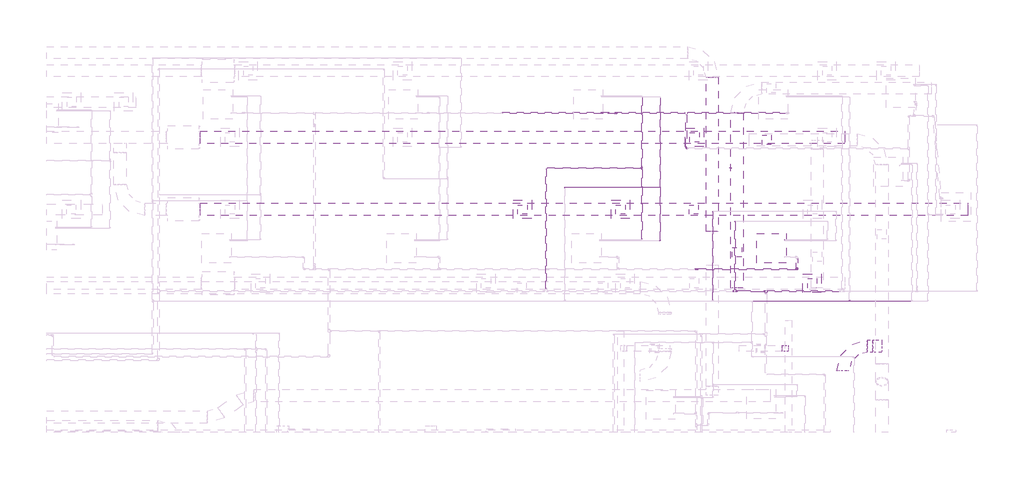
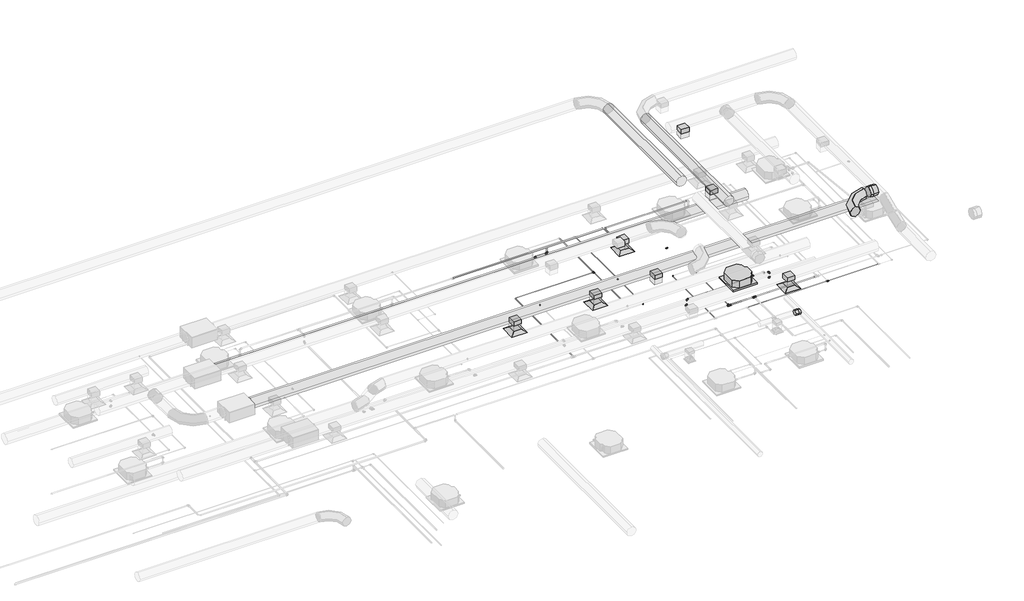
# One storey, part 19 of 21: 24 pipe fittings, 21 pipe segments, 12 duct segments, 10 duct fittings, 4 air terminals, 1 proxy.
"""IFC4 building model written with IfcOpenShell, lengths in millimetres."""

from ifc_helpers import new_model, si_unit, point, frame, frame_2d, origin, place, context, project, spatial, polyline, circle_curve, trimmed, segment, composite_curve, outline, extrude, transform, mapped, element, save
from ifc_brep_helpers import plane_surface, cylinder_surface, advanced_brep
from components import air_terminal_ff221211, mechanical_equipment_53173f38, duct_fitting_7b39ec1d, duct_fitting_f399081e, duct_fitting_95c1ddea, duct_fitting_2_d_33ab650d, pipe_fitting_144f4440, pipe_fitting_1f557113, pipe_fitting_e10b9b22, pipe_fitting_a5ff4f7d, pipe_fitting_660e7500, pipe_fitting_e6d02d16, pipe_fitting_c3679463, pipe_fitting_8c09d5cc, pipe_fitting_03ed5a55, pipe_fitting_c99c78b2, pipe_fitting_efc12074, pipe_fitting_c900cfc2, pipe_fitting_16c020f5, pipe_fitting_09966660, pipe_fitting_648138cd, pipe_fitting_725bd888

model = new_model("IFC4")

# Units and contexts
model_context = context("Model", 3, world=origin())
ifc_project = project(units=[si_unit("LENGTHUNIT", "METRE", prefix="MILLI")], contexts=[model_context])

# Site, building, storey
site = spatial("IfcSite", under=ifc_project)
building = spatial("IfcBuilding", under=site)
storey = spatial("IfcBuildingStorey", under=building, Name="Nível 1", Elevation=0.0)

# Air terminals
placement = place(None, origin())
air_terminal_shape = air_terminal_ff221211(model_context)
element("IfcAirTerminal", 1, ObjectType="M_Difusor de retorno : 600 x 600 Face 300 x 300 Conexão", at=placement, inside=storey, context=model_context, shape_type="MappedRepresentation", body=[
    mapped(air_terminal_shape, transform((25456.5011566, 2283.4261027, 3000.0), x_axis=(0.0, -1.0, 0.0), y_axis=(1.0, 0.0, 0.0), z_axis=(0.0, 0.0, 1.0))),
])
element("IfcAirTerminal", 2, ObjectType="M_Difusor de fornecimento : 600 x 600 Face 300 x 300 Conexão", at=placement, inside=storey, context=model_context, shape_type="MappedRepresentation", body=[
    mapped(air_terminal_shape, transform((16057.3899244, 4681.9327662, 3000.0), x_axis=(0.0, -1.0, 0.0), y_axis=(1.0, 0.0, 0.0), z_axis=(0.0, 0.0, 1.0))),
])
element("IfcAirTerminal", 3, ObjectType="M_Difusor de fornecimento : 600 x 600 Face 300 x 300 Conexão", at=placement, inside=storey, context=model_context, shape_type="MappedRepresentation", body=[
    mapped(air_terminal_shape, transform((19241.8789049, 4681.9327662, 3000.0), x_axis=(0.0, -1.0, 0.0), y_axis=(1.0, 0.0, 0.0), z_axis=(0.0, 0.0, 1.0))),
])
element("IfcAirTerminal", 4, ObjectType="M_Difusor de fornecimento : 600 x 600 Face 300 x 300 Conexão", at=placement, inside=storey, context=model_context, shape_type="MappedRepresentation", body=[
    mapped(air_terminal_shape, transform((21641.9927036, 7022.5342821, 3000.0), x_axis=(0.0, -1.0, 0.0), y_axis=(1.0, 0.0, 0.0), z_axis=(0.0, 0.0, 1.0))),
])

# Proxy
mechanical_equipment_shape = mechanical_equipment_53173f38(model_context)
element("IfcBuildingElementProxy", 5, Name="Midea_VRF_Indoor_4-way Cassette_MI-90(100,112,140)Q4_DHN1-D (2nd DC) : MI2-112Q4DHN1", ObjectType="Midea_VRF_Indoor_4-way Cassette_MI-90(100,112,140)Q4_DHN1-D (2nd DC) : MI2-112Q4DHN1", at=placement, inside=storey, context=model_context, shape_type="MappedRepresentation", body=[
    mapped(mechanical_equipment_shape, transform((24136.4781645, 3426.4200133, 2999.9914899), x_axis=(1.0, 0.0, 0.0), y_axis=(0.0, 1.0, 0.0), z_axis=(0.0, 0.0, 1.0))),
])

# Duct fittings
duct_fitting_shape = duct_fitting_7b39ec1d(model_context)
element("IfcDuctFitting", 6, ObjectType="M_Encaixe de duto redondo : Padrão", at=placement, inside=storey, context=model_context, shape_type="MappedRepresentation", body=[
    mapped(duct_fitting_shape, transform((24589.1034633, 172.1125512, 3521.0), x_axis=(-1.0, 0.0, 0.0), y_axis=(0.0, 1.0, 0.0), z_axis=(0.0, 0.0, -1.0))),
])
duct_fitting_2_shape = duct_fitting_f399081e(model_context)
element("IfcDuctFitting", 7, ObjectType="M_Encaixe de duto redondo : Padrão", at=placement, inside=storey, context=model_context, shape_type="MappedRepresentation", body=[
    mapped(duct_fitting_2_shape, transform((27514.7064473, 240.6110248, 7501.0), x_axis=(-1.0, 0.0, 0.0), y_axis=(0.0, 1.0, 0.0), z_axis=(0.0, 0.0, -1.0))),
])
duct_fitting_3_shape = duct_fitting_95c1ddea(model_context)
element("IfcDuctFitting", 8, ObjectType="M_Encaixe de duto retangular : Padrão", at=placement, inside=storey, context=model_context, shape_type="MappedRepresentation", body=[
    mapped(duct_fitting_3_shape, transform((16057.3899244, 4681.9327662, 3421.0), x_axis=(0.0, 0.0, -1.0), y_axis=(-1.0, 0.0, 0.0), z_axis=(0.0, 1.0, 0.0))),
])
element("IfcDuctFitting", 9, ObjectType="M_Encaixe de duto retangular : Padrão", at=placement, inside=storey, context=model_context, shape_type="MappedRepresentation", body=[
    mapped(duct_fitting_3_shape, transform((19241.8789049, 4681.9327662, 3421.0), x_axis=(0.0, 0.0, -1.0), y_axis=(-1.0, 0.0, 0.0), z_axis=(0.0, 1.0, 0.0))),
])
element("IfcDuctFitting", 10, ObjectType="M_Encaixe de duto retangular : Padrão", at=placement, inside=storey, context=model_context, shape_type="MappedRepresentation", body=[
    mapped(duct_fitting_3_shape, transform((21615.5206341, 4681.9327662, 3421.0), x_axis=(0.0, 0.0, -1.0), y_axis=(-1.0, 0.0, 0.0), z_axis=(0.0, 1.0, 0.0))),
])
element("IfcDuctFitting", 11, ObjectType="M_Encaixe de duto retangular : Padrão", at=placement, inside=storey, context=model_context, shape_type="MappedRepresentation", body=[
    mapped(duct_fitting_3_shape, transform((21641.9927036, 7022.5342821, 3421.0), x_axis=(0.0, 0.0, -1.0), y_axis=(-1.0, 0.0, 0.0), z_axis=(0.0, 1.0, 0.0))),
])
element("IfcDuctFitting", 12, ObjectType="M_Encaixe de duto retangular : Padrão", at=placement, inside=storey, context=model_context, shape_type="MappedRepresentation", body=[
    mapped(duct_fitting_3_shape, transform((25456.5011566, 2283.4261027, 3421.0), x_axis=(0.0, 0.0, -1.0), y_axis=(-1.0, 0.0, 0.0), z_axis=(0.0, 1.0, 0.0))),
])
element("IfcDuctFitting", 13, ObjectType="M_Encaixe de duto retangular : Padrão", at=placement, inside=storey, context=model_context, shape_type="MappedRepresentation", body=[
    mapped(duct_fitting_3_shape, transform((23981.0509329, 6937.3539749, 7301.0), x_axis=(0.0, 0.0, -1.0), y_axis=(-1.0, 0.0, 0.0), z_axis=(0.0, 1.0, 0.0))),
])
element("IfcDuctFitting", 14, ObjectType="M_Encaixe de duto retangular : Padrão", at=placement, inside=storey, context=model_context, shape_type="MappedRepresentation", body=[
    mapped(duct_fitting_3_shape, transform((23014.7064473, 3294.7054459, 7301.0), x_axis=(0.0, 0.0, -1.0), y_axis=(0.0, 1.0, 0.0), z_axis=(1.0, 0.0, 0.0))),
])
duct_fitting_2_d_shape = duct_fitting_2_d_33ab650d(model_context)
element("IfcDuctFitting", 15, ObjectType="M_Cotovelo redondo : 2 D", at=placement, inside=storey, context=model_context, shape_type="MappedRepresentation", body=[
    mapped(duct_fitting_2_d_shape, transform((26448.2077756, 240.6110248, 7501.0), x_axis=(-1.0, 0.0, 0.0), y_axis=(0.0, -1.0, 0.0), z_axis=(0.0, 0.0, 1.0))),
])

# Duct segments
element("IfcDuctSegment", 16, ObjectType="Torneiras / Raio curto", at=placement, inside=storey, context=model_context, shape_type="SweptSolid", body=[
    extrude(outline(composite_curve([segment(trimmed(circle_curve(frame_2d((4681.9327662, 3621.0)), 200.0), [point((4481.9327662, 3621.0))], [point((4681.9327662, 3821.0))], False, "CARTESIAN"), True, "CONTINUOUS"), segment(trimmed(circle_curve(frame_2d((4681.9327662, 3621.0)), 200.0), [point((4681.9327662, 3821.0))], [point((4881.9327662, 3621.0))], False, "CARTESIAN"), True, "CONTINUOUS"), segment(trimmed(circle_curve(frame_2d((4681.9327662, 3621.0)), 200.0), [point((4881.9327662, 3621.0))], [point((4681.9327662, 3421.0))], False, "CARTESIAN"), True, "CONTINUOUS"), segment(trimmed(circle_curve(frame_2d((4681.9327662, 3621.0)), 200.0), [point((4681.9327662, 3421.0))], [point((4481.9327662, 3621.0))], False, "CARTESIAN"), True, "CONTINUOUS")], self_intersect=False)), frame((5607.3899244, 0.0, 0.0), z_axis=(1.0, 0.0, 0.0), x_axis=(0.0, 1.0, 0.0)), (0.0, 0.0, 1.0), 24900.0),
])
element("IfcDuctSegment", 17, ObjectType="Torneiras / Raio curto", at=placement, inside=storey, context=model_context, shape_type="SweptSolid", body=[
    extrude(outline(composite_curve([segment(trimmed(circle_curve(frame_2d((7022.5342821, 3621.0)), 200.0), [point((6822.5342821, 3621.0))], [point((7022.5342821, 3821.0))], False, "CARTESIAN"), True, "CONTINUOUS"), segment(trimmed(circle_curve(frame_2d((7022.5342821, 3621.0)), 200.0), [point((7022.5342821, 3821.0))], [point((7222.5342821, 3621.0))], False, "CARTESIAN"), True, "CONTINUOUS"), segment(trimmed(circle_curve(frame_2d((7022.5342821, 3621.0)), 200.0), [point((7222.5342821, 3621.0))], [point((7022.5342821, 3421.0))], False, "CARTESIAN"), True, "CONTINUOUS"), segment(trimmed(circle_curve(frame_2d((7022.5342821, 3621.0)), 200.0), [point((7022.5342821, 3421.0))], [point((6822.5342821, 3621.0))], False, "CARTESIAN"), True, "CONTINUOUS")], self_intersect=False)), frame((5607.3899244, 0.0, 0.0), z_axis=(1.0, 0.0, 0.0), x_axis=(0.0, 1.0, 0.0)), (0.0, 0.0, 1.0), 20900.0),
])
element("IfcDuctSegment", 18, ObjectType="Raios cotovelos / torneiras", at=placement, inside=storey, context=model_context, shape_type="SweptSolid", body=[
    extrude(outline(polyline([(16207.3899244, 4531.9327662), (15907.3899244, 4531.9327662), (15907.3899244, 4831.9327662), (16207.3899244, 4831.9327662), (16207.3899244, 4531.9327662)])), frame((0.0, 0.0, 3101.6), z_axis=(0.0, 0.0, 1.0), x_axis=(1.0, 0.0, 0.0)), (0.0, 0.0, 1.0), 217.8),
])
element("IfcDuctSegment", 19, ObjectType="Raios cotovelos / torneiras", at=placement, inside=storey, context=model_context, shape_type="SweptSolid", body=[
    extrude(outline(polyline([(19391.8789049, 4531.9327662), (19091.8789049, 4531.9327662), (19091.8789049, 4831.9327662), (19391.8789049, 4831.9327662), (19391.8789049, 4531.9327662)])), frame((0.0, 0.0, 3101.6), z_axis=(0.0, 0.0, 1.0), x_axis=(1.0, 0.0, 0.0)), (0.0, 0.0, 1.0), 217.8),
])
element("IfcDuctSegment", 20, ObjectType="Raios cotovelos / torneiras", at=placement, inside=storey, context=model_context, shape_type="SweptSolid", body=[
    extrude(outline(polyline([(21765.5206341, 4531.9327662), (21465.5206341, 4531.9327662), (21465.5206341, 4831.9327662), (21765.5206341, 4831.9327662), (21765.5206341, 4531.9327662)])), frame((0.0, 0.0, 3101.6), z_axis=(0.0, 0.0, 1.0), x_axis=(1.0, 0.0, 0.0)), (0.0, 0.0, 1.0), 217.8),
])
element("IfcDuctSegment", 21, ObjectType="Raios cotovelos / torneiras", at=placement, inside=storey, context=model_context, shape_type="SweptSolid", body=[
    extrude(outline(polyline([(21791.9927036, 6872.5342821), (21491.9927036, 6872.5342821), (21491.9927036, 7172.5342821), (21791.9927036, 7172.5342821), (21791.9927036, 6872.5342821)])), frame((0.0, 0.0, 3101.6), z_axis=(0.0, 0.0, 1.0), x_axis=(1.0, 0.0, 0.0)), (0.0, 0.0, 1.0), 217.8),
])
element("IfcDuctSegment", 22, ObjectType="Raios cotovelos / torneiras", at=placement, inside=storey, context=model_context, shape_type="SweptSolid", body=[
    extrude(outline(polyline([(25606.5011566, 2133.4261027), (25306.5011566, 2133.4261027), (25306.5011566, 2433.4261027), (25606.5011566, 2433.4261027), (25606.5011566, 2133.4261027)])), frame((0.0, 0.0, 3101.6), z_axis=(0.0, 0.0, 1.0), x_axis=(1.0, 0.0, 0.0)), (0.0, 0.0, 1.0), 217.8),
])
element("IfcDuctSegment", 23, ObjectType="Torneiras / Raio curto", at=placement, inside=storey, context=model_context, shape_type="SweptSolid", body=[
    extrude(outline(composite_curve([segment(trimmed(circle_curve(frame_2d((240.6110248, 7501.0)), 200.0), [point((440.6110248, 7501.0))], [point((240.6110248, 7301.0))], False, "CARTESIAN"), True, "CONTINUOUS"), segment(trimmed(circle_curve(frame_2d((240.6110248, 7501.0)), 200.0), [point((240.6110248, 7301.0))], [point((40.6110248, 7501.0))], False, "CARTESIAN"), True, "CONTINUOUS"), segment(trimmed(circle_curve(frame_2d((240.6110248, 7501.0)), 200.0), [point((40.6110248, 7501.0))], [point((240.6110248, 7701.0))], False, "CARTESIAN"), True, "CONTINUOUS"), segment(trimmed(circle_curve(frame_2d((240.6110248, 7501.0)), 200.0), [point((240.6110248, 7701.0))], [point((440.6110248, 7501.0))], False, "CARTESIAN"), True, "CONTINUOUS")], self_intersect=False)), frame((27248.2077756, 0.0, 0.0), z_axis=(1.0, 0.0, 0.0), x_axis=(0.0, 1.0, 0.0)), (0.0, 0.0, 1.0), 164.8986717),
])
element("IfcDuctSegment", 24, ObjectType="Raios cotovelos / torneiras", at=placement, inside=storey, context=model_context, shape_type="SweptSolid", body=[
    extrude(outline(polyline([(24131.0509329, 6787.3539749), (23831.0509329, 6787.3539749), (23831.0509329, 7087.3539749), (24131.0509329, 7087.3539749), (24131.0509329, 6787.3539749)])), frame((0.0, 0.0, 6981.6), z_axis=(0.0, 0.0, 1.0), x_axis=(1.0, 0.0, 0.0)), (0.0, 0.0, 1.0), 217.8),
])
element("IfcDuctSegment", 25, ObjectType="Torneiras / Raio curto", at=placement, inside=storey, context=model_context, shape_type="SweptSolid", body=[
    extrude(outline(composite_curve([segment(trimmed(circle_curve(frame_2d((7501.0, 23014.7064473)), 200.0), [point((7501.0, 22814.7064473))], [point((7301.0, 23014.7064473))], False, "CARTESIAN"), True, "CONTINUOUS"), segment(trimmed(circle_curve(frame_2d((7501.0, 23014.7064473)), 200.0), [point((7301.0, 23014.7064473))], [point((7501.0, 23214.7064473))], False, "CARTESIAN"), True, "CONTINUOUS"), segment(trimmed(circle_curve(frame_2d((7501.0, 23014.7064473)), 200.0), [point((7501.0, 23214.7064473))], [point((7701.0, 23014.7064473))], False, "CARTESIAN"), True, "CONTINUOUS"), segment(trimmed(circle_curve(frame_2d((7501.0, 23014.7064473)), 200.0), [point((7701.0, 23014.7064473))], [point((7501.0, 22814.7064473))], False, "CARTESIAN"), True, "CONTINUOUS")], self_intersect=False)), frame((0.0, 2137.3539749, 0.0), z_axis=(0.0, 1.0, 0.0), x_axis=(0.0, 0.0, 1.0)), (0.0, 0.0, 1.0), 5679.3450093),
])
element("IfcDuctSegment", 26, ObjectType="Torneiras / Raio curto", at=placement, inside=storey, context=model_context, shape_type="SweptSolid", body=[
    extrude(outline(composite_curve([segment(trimmed(circle_curve(frame_2d((7501.0, 22212.1483041)), 200.0), [point((7501.0, 22412.1483041))], [point((7701.0, 22212.1483041))], False, "CARTESIAN"), True, "CONTINUOUS"), segment(trimmed(circle_curve(frame_2d((7501.0, 22212.1483041)), 200.0), [point((7701.0, 22212.1483041))], [point((7501.0, 22012.1483041))], False, "CARTESIAN"), True, "CONTINUOUS"), segment(trimmed(circle_curve(frame_2d((7501.0, 22212.1483041)), 200.0), [point((7501.0, 22012.1483041))], [point((7301.0, 22212.1483041))], False, "CARTESIAN"), True, "CONTINUOUS"), segment(trimmed(circle_curve(frame_2d((7501.0, 22212.1483041)), 200.0), [point((7301.0, 22212.1483041))], [point((7501.0, 22412.1483041))], False, "CARTESIAN"), True, "CONTINUOUS")], self_intersect=False)), frame((0.0, 3969.8368648, 0.0), z_axis=(0.0, 1.0, 0.0), x_axis=(0.0, 0.0, 1.0)), (0.0, 0.0, 1.0), 5000.0),
])
element("IfcDuctSegment", 27, ObjectType="Raios cotovelos / torneiras", at=placement, inside=storey, context=model_context, shape_type="SweptSolid", body=[
    extrude(outline(polyline([(22864.7064473, 3144.7054459), (22864.7064473, 3444.7054459), (23164.7064473, 3444.7054459), (23164.7064473, 3144.7054459), (22864.7064473, 3144.7054459)])), frame((0.0, 0.0, 6981.6), z_axis=(0.0, 0.0, 1.0), x_axis=(1.0, 0.0, 0.0)), (0.0, 0.0, 1.0), 217.8),
])

# Pipe fittings
pipe_fitting_shape = pipe_fitting_144f4440(model_context)
element("IfcPipeFitting", 28, ObjectType="Cotovelo - PVC - CW : Padrão", at=placement, inside=storey, context=model_context, shape_type="MappedRepresentation", body=[
    mapped(pipe_fitting_shape, transform((21703.0781645, 2741.4200133, 3500.0), x_axis=(-1.0, 0.0, 0.0), y_axis=(0.0, 0.0, -1.0), z_axis=(0.0, -1.0, 0.0))),
])
element("IfcPipeFitting", 29, ObjectType="Cotovelo - PVC - CW : Padrão", at=placement, inside=storey, context=model_context, shape_type="MappedRepresentation", body=[
    mapped(pipe_fitting_shape, transform((21703.0781645, 2741.4200133, 3252.3), x_axis=(0.0, 0.0, -1.0), y_axis=(-1.0, 0.0, 0.0), z_axis=(0.0, 1.0, 0.0))),
])
element("IfcPipeFitting", 30, ObjectType="Cotovelo - PVC - CW : Padrão", at=placement, inside=storey, context=model_context, shape_type="MappedRepresentation", body=[
    mapped(pipe_fitting_shape, transform((24961.4781645, 2741.4200133, 3500.0), x_axis=(1.0, 0.0, 0.0), y_axis=(0.0, 0.0, -1.0), z_axis=(0.0, 1.0, 0.0))),
])
element("IfcPipeFitting", 31, ObjectType="Cotovelo - PVC - CW : Padrão", at=placement, inside=storey, context=model_context, shape_type="MappedRepresentation", body=[
    mapped(pipe_fitting_shape, transform((24961.4781645, 2741.4200133, 3252.3), x_axis=(0.0, 0.0, -1.0), y_axis=(0.0, 1.0, 0.0), z_axis=(1.0, 0.0, 0.0))),
])
element("IfcPipeFitting", 32, ObjectType="Cotovelo - PVC - CW : Padrão", at=placement, inside=storey, context=model_context, shape_type="MappedRepresentation", body=[
    mapped(pipe_fitting_shape, transform((21369.1842863, 6666.8040024, 3500.0), x_axis=(0.0, -1.0, 0.0), y_axis=(1.0, 0.0, 0.0), z_axis=(0.0, 0.0, 1.0))),
])
pipe_fitting_2_shape = pipe_fitting_1f557113(model_context)
element("IfcPipeFitting", 33, ObjectType="Redutor de acoplamento - PVC - CW : Padrão", at=placement, inside=storey, context=model_context, shape_type="MappedRepresentation", body=[
    mapped(pipe_fitting_2_shape, transform((18616.7954066, 7810.8048285, 3252.3085101), x_axis=(1.0, 0.0, 0.0), y_axis=(0.0, 1.0, 0.0), z_axis=(0.0, 0.0, 1.0))),
])
pipe_fitting_3_shape = pipe_fitting_e10b9b22(model_context)
element("IfcPipeFitting", 34, ObjectType="Cotovelo - PVC - CW : Padrão", at=placement, inside=storey, context=model_context, shape_type="MappedRepresentation", body=[
    mapped(pipe_fitting_3_shape, transform((19116.7954065, 7810.8048285, 3252.3), x_axis=(0.9999999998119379, 0.0, -1.9393922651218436e-05), y_axis=(1.9393922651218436e-05, 0.0, 0.9999999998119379), z_axis=(0.0, -1.0, 0.0))),
])
pipe_fitting_4_shape = pipe_fitting_a5ff4f7d(model_context)
element("IfcPipeFitting", 35, ObjectType="Bucha de redução reta - Soldada - CU : Padrão", at=placement, inside=storey, context=model_context, shape_type="MappedRepresentation", body=[
    mapped(pipe_fitting_4_shape, transform((19932.4995645, 6059.5006845, 3252.3085101), x_axis=(0.0, 1.0, 0.0), y_axis=(-1.0, 0.0, 0.0), z_axis=(0.0, 0.0, 1.0))),
])
element("IfcPipeFitting", 36, ObjectType="Bucha de redução reta - Soldada - CU : Padrão", at=placement, inside=storey, context=model_context, shape_type="MappedRepresentation", body=[
    mapped(pipe_fitting_4_shape, transform((19932.4995645, 5994.0064845, 3252.3085101), x_axis=(0.0, -1.0, 0.0), y_axis=(1.0, 0.0, 0.0), z_axis=(0.0, 0.0, 1.0))),
])
pipe_fitting_5_shape = pipe_fitting_660e7500(model_context)
element("IfcPipeFitting", 37, ObjectType="Tê - Soldado - CU : Padrão", at=placement, inside=storey, context=model_context, shape_type="MappedRepresentation", body=[
    mapped(pipe_fitting_5_shape, transform((19932.4995645, 6026.7535845, 3252.3085101), x_axis=(0.0, -1.0, 0.0), y_axis=(1.0, 0.0, 0.0), z_axis=(0.0, 0.0, 1.0))),
])
pipe_fitting_6_shape = pipe_fitting_e6d02d16(model_context)
element("IfcPipeFitting", 38, ObjectType="Bucha de redução reta - Soldada - CU : Padrão", at=placement, inside=storey, context=model_context, shape_type="MappedRepresentation", body=[
    mapped(pipe_fitting_6_shape, transform((26696.6697481, 1706.2287572, 3146.8), x_axis=(1.0, 0.0, 0.0), y_axis=(0.0, 0.9999999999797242, -6.368020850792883e-06), z_axis=(0.0, 6.368020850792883e-06, 0.9999999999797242))),
])
pipe_fitting_7_shape = pipe_fitting_c3679463(model_context)
element("IfcPipeFitting", 39, ObjectType="Bucha de redução reta - Soldada - CU : Padrão", at=placement, inside=storey, context=model_context, shape_type="MappedRepresentation", body=[
    mapped(pipe_fitting_7_shape, transform((22952.4995645, 2076.083811, 3240.864751), x_axis=(0.0, 1.0, 0.0), y_axis=(-0.9999998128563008, 0.0, 0.0006117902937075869), z_axis=(0.0006117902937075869, 0.0, 0.9999998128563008))),
])
pipe_fitting_8_shape = pipe_fitting_8c09d5cc(model_context)
element("IfcPipeFitting", 40, ObjectType="Tê - Soldado - CU : Padrão", at=placement, inside=storey, context=model_context, shape_type="MappedRepresentation", body=[
    mapped(pipe_fitting_8_shape, transform((22952.4995645, 2025.308811, 3240.864751), x_axis=(-0.9999998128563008, 0.0, 0.0006117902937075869), y_axis=(0.0, -1.0, 0.0), z_axis=(0.0006117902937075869, 0.0, 0.9999998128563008))),
])
pipe_fitting_9_shape = pipe_fitting_03ed5a55(model_context)
element("IfcPipeFitting", 41, ObjectType="Bucha de redução reta - Soldada - CU : Padrão", at=placement, inside=storey, context=model_context, shape_type="MappedRepresentation", body=[
    mapped(pipe_fitting_9_shape, transform((23003.182055, 2025.308811, 3240.833744), x_axis=(0.9999998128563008, 0.0, -0.0006117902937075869), y_axis=(0.0, 1.0, 0.0), z_axis=(0.0006117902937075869, 0.0, 0.9999998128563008))),
])
pipe_fitting_10_shape = pipe_fitting_c99c78b2(model_context)
element("IfcPipeFitting", 42, ObjectType="Bucha de redução reta - Soldada - CU : Padrão", at=placement, inside=storey, context=model_context, shape_type="MappedRepresentation", body=[
    mapped(pipe_fitting_10_shape, transform((26666.4744981, 1736.3892572, 3146.7998079), x_axis=(0.0, 0.9999999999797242, -6.368020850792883e-06), y_axis=(-1.0000000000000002, 0.0, 0.0), z_axis=(0.0, 6.368020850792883e-06, 0.9999999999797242))),
])
pipe_fitting_11_shape = pipe_fitting_efc12074(model_context)
element("IfcPipeFitting", 43, ObjectType="Tê - Soldado - CU : Padrão", at=placement, inside=storey, context=model_context, shape_type="MappedRepresentation", body=[
    mapped(pipe_fitting_11_shape, transform((23956.1500382, 2025.308811, 3240.2507273), x_axis=(-0.9999998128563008, 0.0, 0.0006117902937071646), y_axis=(0.0, 1.0, 0.0), z_axis=(-0.0006117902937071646, 0.0, -0.9999998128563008))),
])
pipe_fitting_12_shape = pipe_fitting_c900cfc2(model_context)
element("IfcPipeFitting", 44, ObjectType="Bucha de redução reta - Soldada - CU : Padrão", at=placement, inside=storey, context=model_context, shape_type="MappedRepresentation", body=[
    mapped(pipe_fitting_12_shape, transform((24561.4781645, 3699.630827, 3252.3085101), x_axis=(1.0, 0.0, 0.0), y_axis=(0.0, 1.0, 0.0), z_axis=(0.0, 0.0, 1.0))),
])
pipe_fitting_13_shape = pipe_fitting_16c020f5(model_context)
element("IfcPipeFitting", 45, ObjectType="Cotovelo - Soldado - CU : Padrão", at=placement, inside=storey, context=model_context, shape_type="MappedRepresentation", body=[
    mapped(pipe_fitting_13_shape, transform((22952.4995645, 4299.630827, 3252.3), x_axis=(-1.0, 0.0, 0.0), y_axis=(0.0, -0.9999862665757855, -0.005240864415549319), z_axis=(0.0, -0.005240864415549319, 0.9999862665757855))),
])
pipe_fitting_14_shape = pipe_fitting_09966660(model_context)
element("IfcPipeFitting", 46, ObjectType="Tê - Soldado - CU : Padrão", at=placement, inside=storey, context=model_context, shape_type="MappedRepresentation", body=[
    mapped(pipe_fitting_14_shape, transform((22814.4048066, 6034.3232345, 3252.3085101), x_axis=(-1.0, 0.0, 0.0), y_axis=(0.0, 1.0, 0.0), z_axis=(0.0, 0.0, -1.0))),
])
element("IfcPipeFitting", 47, ObjectType="Tê - Soldado - CU : Padrão", at=placement, inside=storey, context=model_context, shape_type="MappedRepresentation", body=[
    mapped(pipe_fitting_14_shape, transform((26666.4744981, 1706.2287572, 3146.8), x_axis=(-1.0, 0.0, 0.0), y_axis=(0.0, -0.9999999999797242, 6.368020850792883e-06), z_axis=(0.0, 6.368020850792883e-06, 0.9999999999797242))),
])
pipe_fitting_15_shape = pipe_fitting_648138cd(model_context)
element("IfcPipeFitting", 48, ObjectType="Cotovelo - Soldado - CU : Padrão", at=placement, inside=storey, context=model_context, shape_type="MappedRepresentation", body=[
    mapped(pipe_fitting_15_shape, transform((20526.4698012, 3665.8283851, 3146.7009439), x_axis=(0.9999999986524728, 0.0, -5.1913914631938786e-05), y_axis=(0.0, 1.0000000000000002, 0.0), z_axis=(5.1913914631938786e-05, 0.0, 0.9999999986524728))),
])
element("IfcPipeFitting", 49, ObjectType="Cotovelo - Soldado - CU : Padrão", at=placement, inside=storey, context=model_context, shape_type="MappedRepresentation", body=[
    mapped(pipe_fitting_15_shape, transform((17431.2298012, 5398.6550429, 3146.7009439), x_axis=(-1.0, 0.0, 0.0), y_axis=(0.0, -0.9999999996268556, 2.7318286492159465e-05), z_axis=(0.0, 2.7318286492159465e-05, 0.9999999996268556))),
])
element("IfcPipeFitting", 50, ObjectType="Cotovelo - Soldado - CU : Padrão", at=placement, inside=storey, context=model_context, shape_type="MappedRepresentation", body=[
    mapped(pipe_fitting_15_shape, transform((22231.1525645, 4625.8283851, 3146.8), x_axis=(-1.0, 0.0, 0.0), y_axis=(0.0, -1.0, 0.0), z_axis=(0.0, 0.0, 1.0))),
])
pipe_fitting_16_shape = pipe_fitting_725bd888(model_context)
element("IfcPipeFitting", 51, ObjectType="Tê - Soldado - CU : Padrão", at=placement, inside=storey, context=model_context, shape_type="MappedRepresentation", body=[
    mapped(pipe_fitting_16_shape, transform((20526.4698012, 5398.6550429, 3146.7009439), x_axis=(0.0, 1.0, 0.0), y_axis=(1.0, 0.0, 0.0), z_axis=(0.0, 0.0, -1.0))),
])

# Pipe segments
element("IfcPipeSegment", 52, ObjectType="Plástico", at=placement, inside=storey, context=model_context, shape_type="SweptSolid", body=[
    extrude(outline(composite_curve([segment(trimmed(circle_curve(frame_2d((2741.4200133, 3500.0)), 20.0), [point((2721.4200133, 3500.0))], [point((2741.4200133, 3520.0))], False, "CARTESIAN"), True, "CONTINUOUS"), segment(trimmed(circle_curve(frame_2d((2741.4200133, 3500.0)), 20.0), [point((2741.4200133, 3520.0))], [point((2761.4200133, 3500.0))], False, "CARTESIAN"), True, "CONTINUOUS"), segment(trimmed(circle_curve(frame_2d((2741.4200133, 3500.0)), 20.0), [point((2761.4200133, 3500.0))], [point((2741.4200133, 3480.0))], False, "CARTESIAN"), True, "CONTINUOUS"), segment(trimmed(circle_curve(frame_2d((2741.4200133, 3500.0)), 20.0), [point((2741.4200133, 3480.0))], [point((2721.4200133, 3500.0))], False, "CARTESIAN"), True, "CONTINUOUS")], self_intersect=False)), frame((21748.0781645, 0.0, 0.0), z_axis=(1.0, 0.0, 0.0), x_axis=(0.0, 1.0, 0.0)), (0.0, 0.0, 1.0), 3168.4),
])
element("IfcPipeSegment", 53, ObjectType="Plástico", at=placement, inside=storey, context=model_context, shape_type="SweptSolid", body=[
    extrude(outline(composite_curve([segment(trimmed(circle_curve(frame_2d((3252.3, 24961.4781645)), 20.0), [point((3252.3, 24981.4781645))], [point((3272.3, 24961.4781645))], False, "CARTESIAN"), True, "CONTINUOUS"), segment(trimmed(circle_curve(frame_2d((3252.3, 24961.4781645)), 20.0), [point((3272.3, 24961.4781645))], [point((3252.3, 24941.4781645))], False, "CARTESIAN"), True, "CONTINUOUS"), segment(trimmed(circle_curve(frame_2d((3252.3, 24961.4781645)), 20.0), [point((3252.3, 24941.4781645))], [point((3232.3, 24961.4781645))], False, "CARTESIAN"), True, "CONTINUOUS"), segment(trimmed(circle_curve(frame_2d((3252.3, 24961.4781645)), 20.0), [point((3232.3, 24961.4781645))], [point((3252.3, 24981.4781645))], False, "CARTESIAN"), True, "CONTINUOUS")], self_intersect=False)), frame((0.0, 2786.4200133, 0.0), z_axis=(0.0, 1.0, 0.0), x_axis=(0.0, 0.0, 1.0)), (0.0, 0.0, 1.0), 310.0),
])
element("IfcPipeSegment", 54, ObjectType="Plástico", at=placement, inside=storey, context=model_context, shape_type="SweptSolid", body=[
    extrude(outline(composite_curve([segment(trimmed(circle_curve(frame_2d((24961.4781645, 2741.4200133)), 20.0), [point((24981.4781645, 2741.4200133))], [point((24961.4781645, 2721.4200133))], False, "CARTESIAN"), True, "CONTINUOUS"), segment(trimmed(circle_curve(frame_2d((24961.4781645, 2741.4200133)), 20.0), [point((24961.4781645, 2721.4200133))], [point((24941.4781645, 2741.4200133))], False, "CARTESIAN"), True, "CONTINUOUS"), segment(trimmed(circle_curve(frame_2d((24961.4781645, 2741.4200133)), 20.0), [point((24941.4781645, 2741.4200133))], [point((24961.4781645, 2761.4200133))], False, "CARTESIAN"), True, "CONTINUOUS"), segment(trimmed(circle_curve(frame_2d((24961.4781645, 2741.4200133)), 20.0), [point((24961.4781645, 2761.4200133))], [point((24981.4781645, 2741.4200133))], False, "CARTESIAN"), True, "CONTINUOUS")], self_intersect=False)), frame((0.0, 0.0, 3297.3), z_axis=(0.0, 0.0, 1.0), x_axis=(1.0, 0.0, 0.0)), (0.0, 0.0, 1.0), 157.7),
])
element("IfcPipeSegment", 55, ObjectType="Plástico", at=placement, inside=storey, context=model_context, shape_type="SweptSolid", body=[
    extrude(outline(composite_curve([segment(trimmed(circle_curve(frame_2d((0.0, -25.0)), 25.0), [point((-25.0, -25.0))], [point((0.0, 0.0))], False, "CARTESIAN"), True, "CONTINUOUS"), segment(trimmed(circle_curve(frame_2d((0.0, -25.0)), 25.0), [point((0.0, 0.0))], [point((25.0, -25.0))], False, "CARTESIAN"), True, "CONTINUOUS"), segment(trimmed(circle_curve(frame_2d((0.0, -25.0)), 25.0), [point((25.0, -25.0))], [point((0.0, -50.0))], False, "CARTESIAN"), True, "CONTINUOUS"), segment(trimmed(circle_curve(frame_2d((0.0, -25.0)), 25.0), [point((0.0, -50.0))], [point((-25.0, -25.0))], False, "CARTESIAN"), True, "CONTINUOUS")], self_intersect=False)), frame((19062.7943786, 7810.8048285, 3227.3010473), z_axis=(-0.999999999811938, 0.0, 1.9393922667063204e-05), x_axis=(0.0, 1.0, 0.0)), (0.0, 0.0, 1.0), 384.799457),
])
element("IfcPipeSegment", 56, ObjectType="Plástico", at=placement, inside=storey, context=model_context, shape_type="SweptSolid", body=[
    extrude(outline(composite_curve([segment(trimmed(circle_curve(frame_2d((19116.7954065, 7810.8048285)), 25.0), [point((19141.7954065, 7810.8048285))], [point((19116.7954065, 7785.8048285))], False, "CARTESIAN"), True, "CONTINUOUS"), segment(trimmed(circle_curve(frame_2d((19116.7954065, 7810.8048285)), 25.0), [point((19116.7954065, 7785.8048285))], [point((19091.7954065, 7810.8048285))], False, "CARTESIAN"), True, "CONTINUOUS"), segment(trimmed(circle_curve(frame_2d((19116.7954065, 7810.8048285)), 25.0), [point((19091.7954065, 7810.8048285))], [point((19116.7954065, 7835.8048285))], False, "CARTESIAN"), True, "CONTINUOUS"), segment(trimmed(circle_curve(frame_2d((19116.7954065, 7810.8048285)), 25.0), [point((19116.7954065, 7835.8048285))], [point((19141.7954065, 7810.8048285))], False, "CARTESIAN"), True, "CONTINUOUS")], self_intersect=False)), frame((0.0, 0.0, 3306.300543), z_axis=(0.0, 0.0, 1.0), x_axis=(1.0, 0.0, 0.0)), (0.0, 0.0, 1.0), 139.699457),
])
element("IfcPipeSegment", 57, ObjectType="Plástico", at=placement, inside=storey, context=model_context, shape_type="SweptSolid", body=[
    extrude(outline(composite_curve([segment(trimmed(circle_curve(frame_2d((7810.8048285, 3500.0)), 25.0), [point((7785.8048285, 3500.0))], [point((7810.8048285, 3525.0))], False, "CARTESIAN"), True, "CONTINUOUS"), segment(trimmed(circle_curve(frame_2d((7810.8048285, 3500.0)), 25.0), [point((7810.8048285, 3525.0))], [point((7835.8048285, 3500.0))], False, "CARTESIAN"), True, "CONTINUOUS"), segment(trimmed(circle_curve(frame_2d((7810.8048285, 3500.0)), 25.0), [point((7835.8048285, 3500.0))], [point((7810.8048285, 3475.0))], False, "CARTESIAN"), True, "CONTINUOUS"), segment(trimmed(circle_curve(frame_2d((7810.8048285, 3500.0)), 25.0), [point((7810.8048285, 3475.0))], [point((7785.8048285, 3500.0))], False, "CARTESIAN"), True, "CONTINUOUS")], self_intersect=False)), frame((21419.5342863, 0.0, 0.0), z_axis=(1.0, 0.0, 0.0), x_axis=(0.0, 1.0, 0.0)), (0.0, 0.0, 1.0), 3213.6608677),
])
element("IfcPipeSegment", 58, ObjectType="Tubos de cobre HVAC", at=placement, inside=storey, context=model_context, shape_type="SweptSolid", body=[
    extrude(outline(composite_curve([segment(trimmed(circle_curve(frame_2d((3252.3085101, 19932.4995645)), 7.935), [point((3252.3085101, 19940.4345645))], [point((3260.2435101, 19932.4995645))], False, "CARTESIAN"), True, "CONTINUOUS"), segment(trimmed(circle_curve(frame_2d((3252.3085101, 19932.4995645)), 7.935), [point((3260.2435101, 19932.4995645))], [point((3252.3085101, 19924.5645645))], False, "CARTESIAN"), True, "CONTINUOUS"), segment(trimmed(circle_curve(frame_2d((3252.3085101, 19932.4995645)), 7.935), [point((3252.3085101, 19924.5645645))], [point((3244.3735101, 19932.4995645))], False, "CARTESIAN"), True, "CONTINUOUS"), segment(trimmed(circle_curve(frame_2d((3252.3085101, 19932.4995645)), 7.935), [point((3244.3735101, 19932.4995645))], [point((3252.3085101, 19940.4345645))], False, "CARTESIAN"), True, "CONTINUOUS")], self_intersect=False)), frame((0.0, 6072.1595845, 0.0), z_axis=(0.0, 1.0, 0.0), x_axis=(0.0, 0.0, 1.0)), (0.0, 0.0, 1.0), 2252.7381576),
])
element("IfcPipeSegment", 59, ObjectType="Tubos de cobre HVAC", at=placement, inside=storey, context=model_context, shape_type="SweptSolid", body=[
    extrude(outline(composite_curve([segment(trimmed(circle_curve(frame_2d((0.0, -11.11)), 11.11), [point((-11.11, -11.11))], [point((0.0, 0.0))], False, "CARTESIAN"), True, "CONTINUOUS"), segment(trimmed(circle_curve(frame_2d((0.0, -11.11)), 11.11), [point((0.0, 0.0))], [point((11.11, -11.11))], False, "CARTESIAN"), True, "CONTINUOUS"), segment(trimmed(circle_curve(frame_2d((0.0, -11.11)), 11.11), [point((11.11, -11.11))], [point((0.0, -22.22))], False, "CARTESIAN"), True, "CONTINUOUS"), segment(trimmed(circle_curve(frame_2d((0.0, -11.11)), 11.11), [point((0.0, -22.22))], [point((-11.11, -11.11))], False, "CARTESIAN"), True, "CONTINUOUS")], self_intersect=False)), frame((16858.4961953, 6026.7535845, 3241.1900939), z_axis=(0.9999999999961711, 0.0, 2.767310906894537e-06), x_axis=(0.0, -1.0, 0.0)), (0.0, 0.0, 1.0), 3041.2752),
])
element("IfcPipeSegment", 60, ObjectType="Tubos de cobre HVAC", at=placement, inside=storey, context=model_context, shape_type="SweptSolid", body=[
    extrude(outline(composite_curve([segment(trimmed(circle_curve(frame_2d((3252.3085101, 19932.4995645)), 7.935), [point((3252.3085101, 19940.4345645))], [point((3260.2435101, 19932.4995645))], False, "CARTESIAN"), True, "CONTINUOUS"), segment(trimmed(circle_curve(frame_2d((3252.3085101, 19932.4995645)), 7.935), [point((3260.2435101, 19932.4995645))], [point((3252.3085101, 19924.5645645))], False, "CARTESIAN"), True, "CONTINUOUS"), segment(trimmed(circle_curve(frame_2d((3252.3085101, 19932.4995645)), 7.935), [point((3252.3085101, 19924.5645645))], [point((3244.3735101, 19932.4995645))], False, "CARTESIAN"), True, "CONTINUOUS"), segment(trimmed(circle_curve(frame_2d((3252.3085101, 19932.4995645)), 7.935), [point((3244.3735101, 19932.4995645))], [point((3252.3085101, 19940.4345645))], False, "CARTESIAN"), True, "CONTINUOUS")], self_intersect=False)), frame((0.0, 3728.609427, 0.0), z_axis=(0.0, 1.0, 0.0), x_axis=(0.0, 0.0, 1.0)), (0.0, 0.0, 1.0), 2252.7381576),
])
element("IfcPipeSegment", 61, ObjectType="Tubos de cobre HVAC", at=placement, inside=storey, context=model_context, shape_type="AdvancedBrep", body=[
    advanced_brep(
    [(16835.6745645, 2123.0819885, 3244.82235), (16824.5645645, 2123.0607068, 3255.9323296), (16813.4545645, 2123.0819885, 3244.82235), (16824.5645645, 2123.1032702, 3233.7123704), (16835.6745649, 5992.8220468, 3252.235019), (16824.5645649, 5992.8433285, 3241.1250394), (16813.4545649, 5992.8220468, 3252.235019), (16824.5645649, 5992.8007651, 3263.3449986)],
    [
        (0, 1, circle_curve(frame((16824.5645645, 2123.0819885, 3244.82235), z_axis=(0.0, -0.9999981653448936, -0.0019155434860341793), x_axis=(1.0, 0.0, 0.0)), 11.11)),
        (1, 2, circle_curve(frame((16824.5645645, 2123.0819885, 3244.82235), z_axis=(0.0, -0.9999981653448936, -0.0019155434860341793), x_axis=(1.0, 0.0, 0.0)), 11.11)),
        (2, 3, circle_curve(frame((16824.5645645, 2123.0819885, 3244.82235), z_axis=(0.0, -0.9999981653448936, -0.0019155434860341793), x_axis=(1.0, 0.0, 0.0)), 11.11)),
        (3, 0, circle_curve(frame((16824.5645645, 2123.0819885, 3244.82235), z_axis=(0.0, -0.9999981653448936, -0.0019155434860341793), x_axis=(1.0, 0.0, 0.0)), 11.11)),
        (4, 5, circle_curve(frame((16824.5645645, 5992.8220468, 3252.235019), z_axis=(0.0, 0.9999981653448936, 0.0019155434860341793), x_axis=(1.0, 0.0, 0.0)), 11.1100004)),
        (5, 6, circle_curve(frame((16824.5645645, 5992.8220468, 3252.235019), z_axis=(0.0, 0.9999981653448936, 0.0019155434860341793), x_axis=(1.0, 0.0, 0.0)), 11.11)),
        (6, 7, circle_curve(frame((16824.5645645, 5992.8220468, 3252.235019), z_axis=(0.0, 0.9999981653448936, 0.0019155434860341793), x_axis=(1.0, 0.0, 0.0)), 11.1099996)),
        (7, 4, circle_curve(frame((16824.5645645, 5992.8220468, 3252.235019), z_axis=(0.0, 0.9999981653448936, 0.0019155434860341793), x_axis=(1.0, 0.0, 0.0)), 11.11)),
        (0, 4),
        (7, 1),
        (6, 2),
        (5, 3),
    ],
    [
        plane_surface(frame((16824.5645645, 2123.0607068, 3255.9323296), z_axis=(-9.516494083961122e-11, -0.9999981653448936, -0.0019155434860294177), x_axis=(1.0, -9.516476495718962e-11, 0.0))),
        plane_surface(frame((16824.5645649, 5992.8007651, 3263.3449986), z_axis=(9.516316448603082e-11, 0.9999981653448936, 0.0019155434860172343), x_axis=(1.0, -9.516298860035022e-11, 0.0))),
        cylinder_surface(frame((16824.5645645, 2123.0819885, 3244.82235), z_axis=(0.0, -0.9999981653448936, -0.0019155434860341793), x_axis=(1.0, 0.0, 0.0)), 11.11),
    ],
    [
        (0, [[1, 2, 3, 4]]),
        (1, [[5, 6, 7, 8]]),
        (2, [[-1, 9, -8, 10]]),
        (2, [[-2, -10, -7, 11]]),
        (2, [[-3, -11, -6, 12]]),
        (2, [[-4, -12, -5, -9]]),
    ],
),
])
element("IfcPipeSegment", 62, ObjectType="Tubos de cobre HVAC", at=placement, inside=storey, context=model_context, shape_type="SweptSolid", body=[
    extrude(outline(composite_curve([segment(trimmed(circle_curve(frame_2d((3146.7009439, 20526.4698012)), 4.76), [point((3146.7009439, 20521.7098012))], [point((3141.9409439, 20526.4698012))], False, "CARTESIAN"), True, "CONTINUOUS"), segment(trimmed(circle_curve(frame_2d((3146.7009439, 20526.4698012)), 4.76), [point((3141.9409439, 20526.4698012))], [point((3146.7009439, 20531.2298012))], False, "CARTESIAN"), True, "CONTINUOUS"), segment(trimmed(circle_curve(frame_2d((3146.7009439, 20526.4698012)), 4.76), [point((3146.7009439, 20531.2298012))], [point((3151.4609439, 20526.4698012))], False, "CARTESIAN"), True, "CONTINUOUS"), segment(trimmed(circle_curve(frame_2d((3146.7009439, 20526.4698012)), 4.76), [point((3151.4609439, 20526.4698012))], [point((3146.7009439, 20521.7098012))], False, "CARTESIAN"), True, "CONTINUOUS")], self_intersect=False)), frame((0.0, 3689.8539851, 0.0), z_axis=(0.0, 1.0, 0.0), x_axis=(0.0, 0.0, 1.0)), (0.0, 0.0, 1.0), 1686.2774578),
])
element("IfcPipeSegment", 63, ObjectType="Tubos de cobre HVAC", at=placement, inside=storey, context=model_context, shape_type="SweptSolid", body=[
    extrude(outline(composite_curve([segment(trimmed(circle_curve(frame_2d((5398.6550429, 3146.7009439)), 4.76), [point((5403.4150429, 3146.7009439))], [point((5398.6550429, 3141.9409439))], False, "CARTESIAN"), True, "CONTINUOUS"), segment(trimmed(circle_curve(frame_2d((5398.6550429, 3146.7009439)), 4.76), [point((5398.6550429, 3141.9409439))], [point((5393.8950429, 3146.7009439))], False, "CARTESIAN"), True, "CONTINUOUS"), segment(trimmed(circle_curve(frame_2d((5398.6550429, 3146.7009439)), 4.76), [point((5393.8950429, 3146.7009439))], [point((5398.6550429, 3151.4609439))], False, "CARTESIAN"), True, "CONTINUOUS"), segment(trimmed(circle_curve(frame_2d((5398.6550429, 3146.7009439)), 4.76), [point((5398.6550429, 3151.4609439))], [point((5403.4150429, 3146.7009439))], False, "CARTESIAN"), True, "CONTINUOUS")], self_intersect=False)), frame((17455.2554012, 0.0, 0.0), z_axis=(1.0, 0.0, 0.0), x_axis=(0.0, 1.0, 0.0)), (0.0, 0.0, 1.0), 3048.7732),
])
element("IfcPipeSegment", 64, ObjectType="Tubos de cobre HVAC", at=placement, inside=storey, context=model_context, shape_type="SweptSolid", body=[
    extrude(outline(composite_curve([segment(trimmed(circle_curve(frame_2d((3146.7009439, 20526.4698012)), 4.76), [point((3146.7009439, 20521.7098012))], [point((3141.9409439, 20526.4698012))], False, "CARTESIAN"), True, "CONTINUOUS"), segment(trimmed(circle_curve(frame_2d((3146.7009439, 20526.4698012)), 4.76), [point((3141.9409439, 20526.4698012))], [point((3146.7009439, 20531.2298012))], False, "CARTESIAN"), True, "CONTINUOUS"), segment(trimmed(circle_curve(frame_2d((3146.7009439, 20526.4698012)), 4.76), [point((3146.7009439, 20531.2298012))], [point((3151.4609439, 20526.4698012))], False, "CARTESIAN"), True, "CONTINUOUS"), segment(trimmed(circle_curve(frame_2d((3146.7009439, 20526.4698012)), 4.76), [point((3151.4609439, 20526.4698012))], [point((3146.7009439, 20521.7098012))], False, "CARTESIAN"), True, "CONTINUOUS")], self_intersect=False)), frame((0.0, 5421.1786429, 0.0), z_axis=(0.0, 1.0, 0.0), x_axis=(0.0, 0.0, 1.0)), (0.0, 0.0, 1.0), 2890.0089574),
])
element("IfcPipeSegment", 65, ObjectType="Tubos de cobre HVAC", at=placement, inside=storey, context=model_context, shape_type="SweptSolid", body=[
    extrude(outline(composite_curve([segment(trimmed(circle_curve(frame_2d((0.0, 7.935)), 7.935), [point((7.935, 7.935))], [point((0.0, 0.0))], False, "CARTESIAN"), True, "CONTINUOUS"), segment(trimmed(circle_curve(frame_2d((0.0, 7.935)), 7.935), [point((0.0, 0.0))], [point((-7.935, 7.935))], False, "CARTESIAN"), True, "CONTINUOUS"), segment(trimmed(circle_curve(frame_2d((0.0, 7.935)), 7.935), [point((-7.935, 7.935))], [point((0.0, 15.87))], False, "CARTESIAN"), True, "CONTINUOUS"), segment(trimmed(circle_curve(frame_2d((0.0, 7.935)), 7.935), [point((0.0, 15.87))], [point((7.935, 7.935))], False, "CARTESIAN"), True, "CONTINUOUS")], self_intersect=False)), frame((22952.4995645, 2088.701677, 3248.7996449), z_axis=(0.0, 0.9999866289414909, 0.005171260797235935), x_axis=(1.0, 0.0, 0.0)), (0.0, 0.0, 1.0), 2181.9390888),
])
element("IfcPipeSegment", 66, ObjectType="Tubos de cobre HVAC", at=placement, inside=storey, context=model_context, shape_type="SweptSolid", body=[
    extrude(outline(composite_curve([segment(trimmed(circle_curve(frame_2d((3146.8, 22231.1525645)), 4.76), [point((3146.8, 22235.9125645))], [point((3151.56, 22231.1525645))], False, "CARTESIAN"), True, "CONTINUOUS"), segment(trimmed(circle_curve(frame_2d((3146.8, 22231.1525645)), 4.76), [point((3151.56, 22231.1525645))], [point((3146.8, 22226.3925645))], False, "CARTESIAN"), True, "CONTINUOUS"), segment(trimmed(circle_curve(frame_2d((3146.8, 22231.1525645)), 4.76), [point((3146.8, 22226.3925645))], [point((3142.04, 22231.1525645))], False, "CARTESIAN"), True, "CONTINUOUS"), segment(trimmed(circle_curve(frame_2d((3146.8, 22231.1525645)), 4.76), [point((3142.04, 22231.1525645))], [point((3146.8, 22235.9125645))], False, "CARTESIAN"), True, "CONTINUOUS")], self_intersect=False)), frame((0.0, 1748.6313572, 0.0), z_axis=(0.0, 1.0, 0.0), x_axis=(0.0, 0.0, 1.0)), (0.0, 0.0, 1.0), 2853.171428),
])
element("IfcPipeSegment", 67, ObjectType="Tubos de cobre HVAC", at=placement, inside=storey, context=model_context, shape_type="SweptSolid", body=[
    extrude(outline(composite_curve([segment(trimmed(circle_curve(frame_2d((1706.2287572, 3146.8)), 9.525), [point((1696.7037572, 3146.8))], [point((1706.2287572, 3156.325))], False, "CARTESIAN"), True, "CONTINUOUS"), segment(trimmed(circle_curve(frame_2d((1706.2287572, 3146.8)), 9.525), [point((1706.2287572, 3156.325))], [point((1715.7537572, 3146.8))], False, "CARTESIAN"), True, "CONTINUOUS"), segment(trimmed(circle_curve(frame_2d((1706.2287572, 3146.8)), 9.525), [point((1715.7537572, 3146.8))], [point((1706.2287572, 3137.275))], False, "CARTESIAN"), True, "CONTINUOUS"), segment(trimmed(circle_curve(frame_2d((1706.2287572, 3146.8)), 9.525), [point((1706.2287572, 3137.275))], [point((1696.7037572, 3146.8))], False, "CARTESIAN"), True, "CONTINUOUS")], self_intersect=False)), frame((23537.3978147, 0.0, 0.0), z_axis=(1.0, 0.0, 0.0), x_axis=(0.0, 1.0, 0.0)), (0.0, 0.0, 1.0), 3098.8814334),
])
element("IfcPipeSegment", 68, ObjectType="Tubos de cobre HVAC", at=placement, inside=storey, context=model_context, shape_type="SweptSolid", body=[
    extrude(outline(composite_curve([segment(trimmed(circle_curve(frame_2d((1706.2287572, 3146.8)), 6.35), [point((1699.8787572, 3146.8))], [point((1706.2287572, 3153.15))], False, "CARTESIAN"), True, "CONTINUOUS"), segment(trimmed(circle_curve(frame_2d((1706.2287572, 3146.8)), 6.35), [point((1706.2287572, 3153.15))], [point((1712.5787572, 3146.8))], False, "CARTESIAN"), True, "CONTINUOUS"), segment(trimmed(circle_curve(frame_2d((1706.2287572, 3146.8)), 6.35), [point((1712.5787572, 3146.8))], [point((1706.2287572, 3140.45))], False, "CARTESIAN"), True, "CONTINUOUS"), segment(trimmed(circle_curve(frame_2d((1706.2287572, 3146.8)), 6.35), [point((1706.2287572, 3140.45))], [point((1699.8787572, 3146.8))], False, "CARTESIAN"), True, "CONTINUOUS")], self_intersect=False)), frame((26707.8387481, 0.0, 0.0), z_axis=(1.0, 0.0, 0.0), x_axis=(0.0, 1.0, 0.0)), (0.0, 0.0, 1.0), 1956.2620354),
])
element("IfcPipeSegment", 69, ObjectType="Tubos de cobre HVAC", at=placement, inside=storey, context=model_context, shape_type="SweptSolid", body=[
    extrude(outline(composite_curve([segment(trimmed(circle_curve(frame_2d((0.0, -20.9999999)), 21.0), [point((-21.0, -20.9999999))], [point((0.0, 0.0))], False, "CARTESIAN"), True, "CONTINUOUS"), segment(trimmed(circle_curve(frame_2d((0.0, -20.9999999)), 21.0), [point((0.0, 0.0))], [point((21.0, -20.9999999))], False, "CARTESIAN"), True, "CONTINUOUS"), segment(trimmed(circle_curve(frame_2d((0.0, -20.9999999)), 21.0), [point((21.0, -20.9999999))], [point((0.0, -42.0))], False, "CARTESIAN"), True, "CONTINUOUS"), segment(trimmed(circle_curve(frame_2d((0.0, -20.9999999)), 21.0), [point((0.0, -42.0))], [point((-21.0, -20.9999999))], False, "CARTESIAN"), True, "CONTINUOUS")], self_intersect=False)), frame((26342.4989753, 2025.308811, 3217.790778), z_axis=(-0.9999998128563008, 0.0, 0.0006117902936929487), x_axis=(0.0, 1.0, 0.0)), (0.0, 0.0, 1.0), 2332.8622313),
])
element("IfcPipeSegment", 70, ObjectType="Tubos de cobre HVAC", at=placement, inside=storey, context=model_context, shape_type="SweptSolid", body=[
    extrude(outline(composite_curve([segment(trimmed(circle_curve(frame_2d((0.0, -21.0)), 21.0), [point((-21.0, -21.0))], [point((0.0, 0.0))], False, "CARTESIAN"), True, "CONTINUOUS"), segment(trimmed(circle_curve(frame_2d((0.0, -21.0)), 21.0), [point((0.0, 0.0))], [point((21.0, -21.0))], False, "CARTESIAN"), True, "CONTINUOUS"), segment(trimmed(circle_curve(frame_2d((0.0, -21.0)), 21.0), [point((21.0, -21.0))], [point((0.0, -42.0))], False, "CARTESIAN"), True, "CONTINUOUS"), segment(trimmed(circle_curve(frame_2d((0.0, -21.0)), 21.0), [point((0.0, -42.0))], [point((-21.0, -21.0))], False, "CARTESIAN"), True, "CONTINUOUS")], self_intersect=False)), frame((23902.6372006, 2025.308811, 3219.283462), z_axis=(-0.9999998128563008, 0.0, 0.0006117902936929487), x_axis=(0.0, 1.0, 0.0)), (0.0, 0.0, 1.0), 871.4681615),
])
element("IfcPipeSegment", 71, ObjectType="Plástico", at=placement, inside=storey, context=model_context, shape_type="SweptSolid", body=[
    extrude(outline(composite_curve([segment(trimmed(circle_curve(frame_2d((3500.0, 21369.1842863)), 20.0), [point((3500.0, 21349.1842863))], [point((3480.0, 21369.1842863))], False, "CARTESIAN"), True, "CONTINUOUS"), segment(trimmed(circle_curve(frame_2d((3500.0, 21369.1842863)), 20.0), [point((3480.0, 21369.1842863))], [point((3500.0, 21389.1842863))], False, "CARTESIAN"), True, "CONTINUOUS"), segment(trimmed(circle_curve(frame_2d((3500.0, 21369.1842863)), 20.0), [point((3500.0, 21389.1842863))], [point((3520.0, 21369.1842863))], False, "CARTESIAN"), True, "CONTINUOUS"), segment(trimmed(circle_curve(frame_2d((3500.0, 21369.1842863)), 20.0), [point((3520.0, 21369.1842863))], [point((3500.0, 21349.1842863))], False, "CARTESIAN"), True, "CONTINUOUS")], self_intersect=False)), frame((0.0, 6711.8040024, 0.0), z_axis=(0.0, 1.0, 0.0), x_axis=(0.0, 0.0, 1.0)), (0.0, 0.0, 1.0), 1051.4008261),
])
element("IfcPipeSegment", 72, ObjectType="Plástico", at=placement, inside=storey, context=model_context, shape_type="SweptSolid", body=[
    extrude(outline(composite_curve([segment(trimmed(circle_curve(frame_2d((7810.8048285, 3500.0)), 25.0), [point((7785.8048285, 3500.0))], [point((7810.8048285, 3525.0))], False, "CARTESIAN"), True, "CONTINUOUS"), segment(trimmed(circle_curve(frame_2d((7810.8048285, 3500.0)), 25.0), [point((7810.8048285, 3525.0))], [point((7835.8048285, 3500.0))], False, "CARTESIAN"), True, "CONTINUOUS"), segment(trimmed(circle_curve(frame_2d((7810.8048285, 3500.0)), 25.0), [point((7835.8048285, 3500.0))], [point((7810.8048285, 3475.0))], False, "CARTESIAN"), True, "CONTINUOUS"), segment(trimmed(circle_curve(frame_2d((7810.8048285, 3500.0)), 25.0), [point((7810.8048285, 3475.0))], [point((7785.8048285, 3500.0))], False, "CARTESIAN"), True, "CONTINUOUS")], self_intersect=False)), frame((15416.7954065, 0.0, 0.0), z_axis=(1.0, 0.0, 0.0), x_axis=(0.0, 1.0, 0.0)), (0.0, 0.0, 1.0), 5902.0388798),
])

save(model, "model.ifc")
